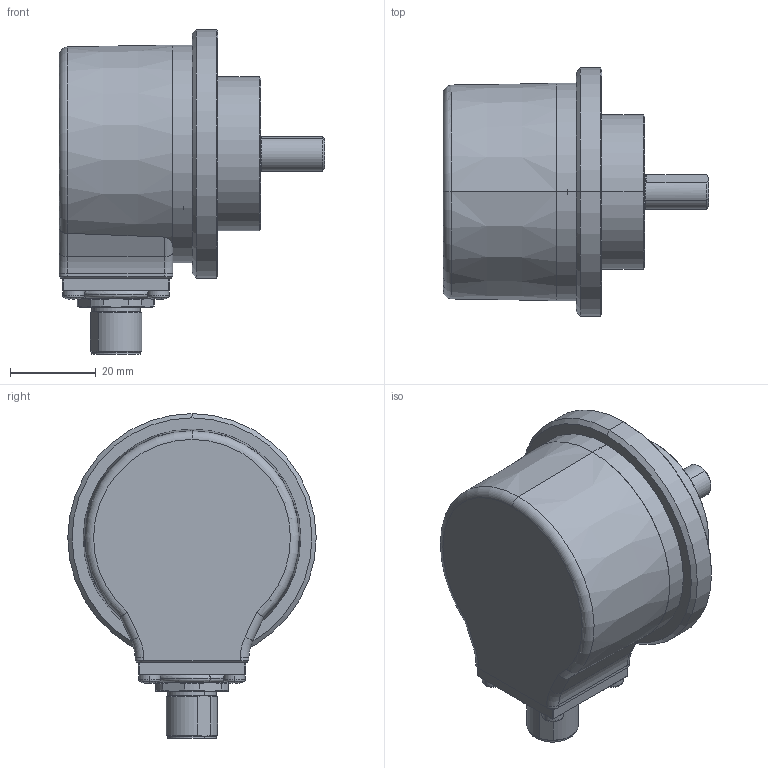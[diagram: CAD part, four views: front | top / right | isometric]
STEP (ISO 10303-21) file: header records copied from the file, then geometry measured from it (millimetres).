
FILE_DESCRIPTION (( 'STEP AP203' ), '1' );
FILE_NAME ('8.5000.867R.XXXX.STEP', '2017-04-05T07:35:23', ( '' ), ( '' ), 'SwSTEP 2.0', 'SolidWorks 2017', '' );
FILE_SCHEMA (( 'CONFIG_CONTROL_DESIGN' ));
Length unit declared in the file: millimetre
Products named in the file (1): 8.5000.867R.XXXX
Bounding box: 62 x 58 x 75.8 mm (x, y, z)
Surface area: 34234.6 mm2 (no closed solid volume)
Topology: 0 solids, 15 shells, 605 faces, 1437 edges, 852 vertices
Faces by surface type: plane 202, cylinder 172, cone 110, bspline 62, torus 47, sphere 12
Entity records: 19692 total; most frequent: CARTESIAN_POINT 5984, DIRECTION 2978, ORIENTED_EDGE 2746, EDGE_CURVE 1381, AXIS2_PLACEMENT_3D 1224, VERTEX_POINT 852, EDGE_LOOP 695, CIRCLE 680
